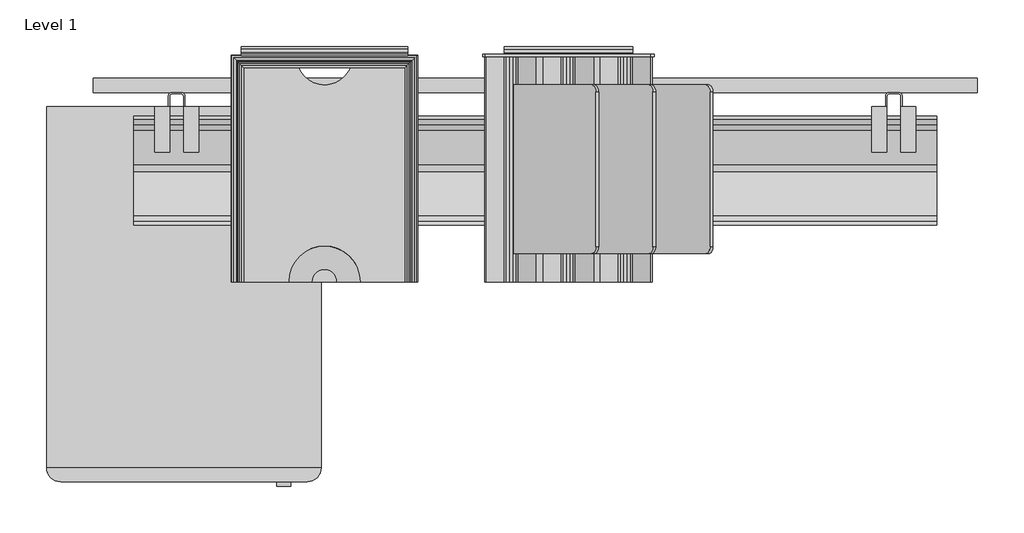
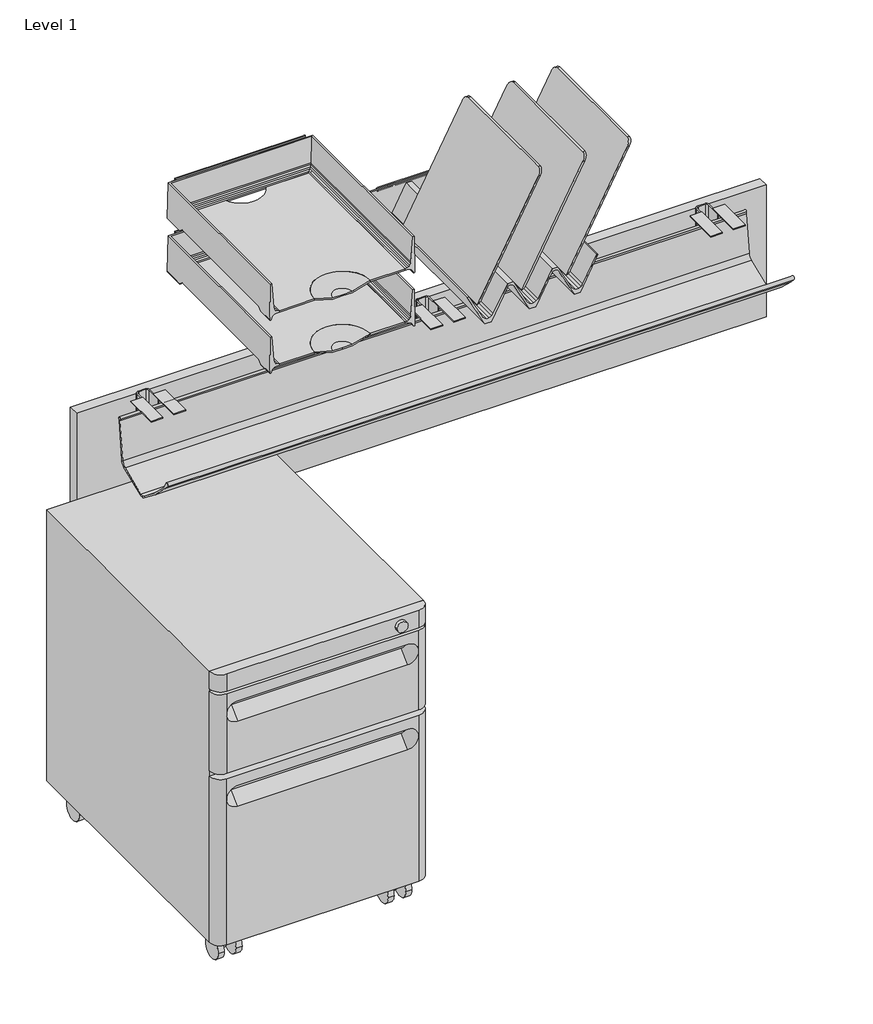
# One storey, incomplete: 5 furniture elements.
"""IFC4 building model written with IfcOpenShell, lengths in millimetres."""

from ifc_helpers import new_model, si_unit, origin, place, context, project, spatial, transform, mapped, element, save
from components import furniture_84c54a78, furniture_f982e0c0, furniture_baef4f76, furniture_31138a8b, lam_48w_cable_trough_d124625d

model = new_model("IFC4")

# Units and contexts
model_context = context("Model", 3, world=origin())
ifc_project = project(units=[si_unit("LENGTHUNIT", "METRE", prefix="MILLI")], contexts=[model_context])

# Site, building, storey
site = spatial("IfcSite", under=ifc_project)
building = spatial("IfcBuilding", under=site)
storey = spatial("IfcBuildingStorey", under=building, Name="Level 1", Elevation=0.0)

# Furniture
placement = place(None, origin())
furniture_shape = furniture_84c54a78(model_context)
element("IfcFurniture", 1, ObjectType="HermanMiller_QuadrantFiling_G5111_MobilePedestal : 21-1/2\"H x 20\"D x 15\"W BF", at=placement, inside=storey, context=model_context, shape_type="MappedRepresentation", body=[
    mapped(furniture_shape, transform((285.09976, -295.356283, 0.0), x_axis=(1.0, 0.0, 0.0), y_axis=(0.0, 1.0, 0.0), z_axis=(0.0, 0.0, 1.0))),
])
furniture_2_shape = furniture_f982e0c0(model_context)
element("IfcFurniture", 2, ObjectType="HermanMiller_ThrivePortfolio_Y7216_PaperTray : 3\"H x 12\"D x 10\"W", at=placement, inside=storey, context=model_context, shape_type="MappedRepresentation", body=[
    mapped(furniture_2_shape, transform((475.22638, -134.34568, 0.0), x_axis=(1.0, 0.0, 0.0), y_axis=(0.0, 1.0, 0.0), z_axis=(0.0, 0.0, 1.0))),
])
furniture_3_shape = furniture_baef4f76(model_context)
element("IfcFurniture", 3, ObjectType="HermanMiller_ThrivePortfolio_Y7216_PaperTray : 3\"H x 12\"D x 10\"W", at=placement, inside=storey, context=model_context, shape_type="MappedRepresentation", body=[
    mapped(furniture_3_shape, transform((475.22638, -134.34568, 0.0), x_axis=(1.0, 0.0, 0.0), y_axis=(0.0, 1.0, 0.0), z_axis=(0.0, 0.0, 1.0))),
])
furniture_4_shape = furniture_31138a8b(model_context)
element("IfcFurniture", 4, ObjectType="HermanMiller_ThrivePortfolio_Y7218_DiagonalTray : 8 1/2\"H x 12\"D x 13\"W", at=placement, inside=storey, context=model_context, shape_type="MappedRepresentation", body=[
    mapped(furniture_4_shape, transform((805.342317, -134.34568, 0.0), x_axis=(1.0, 0.0, 0.0), y_axis=(0.0, 1.0, 0.0), z_axis=(0.0, 0.0, 1.0))),
])
lam_48w_cable_trough_shape = lam_48w_cable_trough_d124625d(model_context)
element("IfcFurniture", 5, ObjectType="HermanMiller_ThrivePortfolio_Y1113_FabricModestyPanel : Lam 48W Cable Trough", at=placement, inside=storey, context=model_context, shape_type="MappedRepresentation", body=[
    mapped(lam_48w_cable_trough_shape, transform((152.4, 0.0, 0.0), x_axis=(1.0, 0.0, 0.0), y_axis=(0.0, 1.0, 0.0), z_axis=(0.0, 0.0, 1.0))),
])

save(model, "model.ifc")
